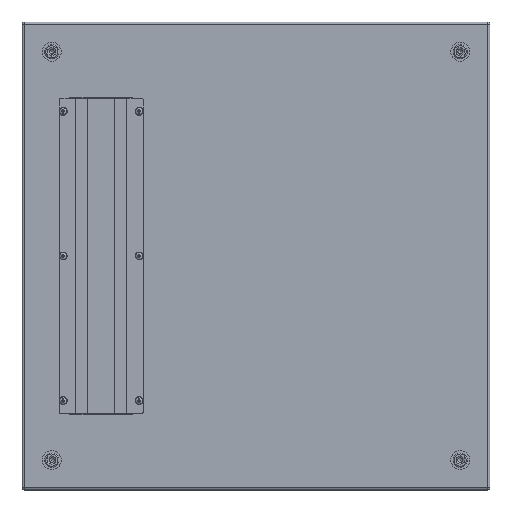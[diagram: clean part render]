
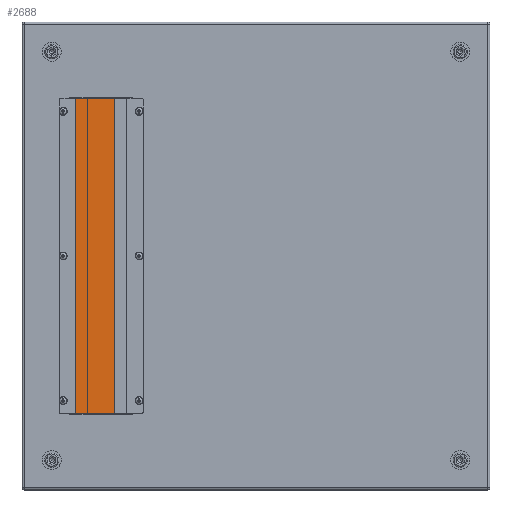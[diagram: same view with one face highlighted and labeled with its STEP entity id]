
A CAD part, top view. The second image highlights one B-rep face of the part: STEP entity #2688.
In plain terms, the highlighted planar face has unit normal (0, 0, 1).
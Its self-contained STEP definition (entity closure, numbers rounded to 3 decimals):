
#2688=ADVANCED_FACE('',(#14888),#14890,.T.);
#14888=FACE_BOUND('',#14889,.T.);
#14889=EDGE_LOOP('',(#20769,#20770,#20771,#20772));
#14890=PLANE('',#14891);
#14891=AXIS2_PLACEMENT_3D('',#14892,#14893,#14894);
#14892=CARTESIAN_POINT('',(-71.,-201.,0.));
#14893=DIRECTION('',(0.,0.,1.));
#14894=DIRECTION('',(1.,0.,0.));
#20769=ORIENTED_EDGE('',*,*,#23721,.T.);
#20770=ORIENTED_EDGE('',*,*,#23708,.T.);
#20771=ORIENTED_EDGE('',*,*,#23722,.F.);
#20772=ORIENTED_EDGE('',*,*,#23719,.F.);
#23708=EDGE_CURVE('',#28583,#28588,#28590,.T.);
#23719=EDGE_CURVE('',#28606,#28608,#28609,.T.);
#23721=EDGE_CURVE('',#28606,#28583,#28611,.T.);
#23722=EDGE_CURVE('',#28608,#28588,#28612,.T.);
#28583=VERTEX_POINT('',#41403);
#28588=VERTEX_POINT('',#41412);
#28590=LINE('',#41416,#41417);
#28606=VERTEX_POINT('',#41452);
#28608=VERTEX_POINT('',#41456);
#28609=LINE('',#41457,#41458);
#28611=LINE('',#41463,#41464);
#28612=LINE('',#41466,#41467);
#41403=CARTESIAN_POINT('',(-21.,-201.,0.));
#41412=CARTESIAN_POINT('',(-21.,201.,0.));
#41416=CARTESIAN_POINT('',(-21.,-201.,0.));
#41417=VECTOR('',#41418,1.);
#41418=DIRECTION('',(0.,1.,0.));
#41452=CARTESIAN_POINT('',(-71.,-201.,0.));
#41456=CARTESIAN_POINT('',(-71.,201.,0.));
#41457=CARTESIAN_POINT('',(-71.,-201.,0.));
#41458=VECTOR('',#41459,1.);
#41459=DIRECTION('',(0.,1.,0.));
#41463=CARTESIAN_POINT('',(-71.,-201.,0.));
#41464=VECTOR('',#41465,1.);
#41465=DIRECTION('',(1.,0.,0.));
#41466=CARTESIAN_POINT('',(-71.,201.,0.));
#41467=VECTOR('',#41468,1.);
#41468=DIRECTION('',(1.,0.,0.));
